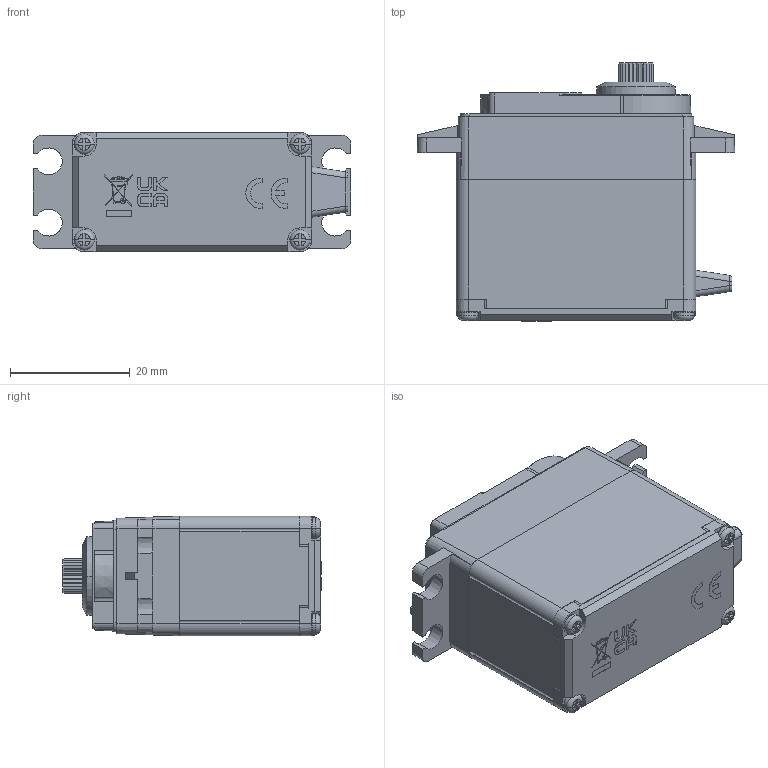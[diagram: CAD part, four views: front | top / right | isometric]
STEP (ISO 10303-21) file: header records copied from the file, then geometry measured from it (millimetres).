
FILE_DESCRIPTION((''),'2;1');
FILE_NAME('HS-5485HB_REPEAT_ASSY_ASM','2023-04-24T',('Kil'),(''),'CREO PARAMETRIC BY PTC INC, 2016050','CREO PARAMETRIC BY PTC INC, 2016050','');
FILE_SCHEMA(('CONFIG_CONTROL_DESIGN'));
Products named in the file (9): HS5485M-R_PBT_120101020162; HS5485T-R_PBT_120101010179; HS5485L-R_PBT_120101030168; 5485G4_HD_120212000604; HS5485G4-RN_ASM; WP_3P_BUSHING_120105020030; 120201000037_18A_CPHT2_2XL30; NP_120104010238_15_37_10_33; HS-5485HB_REPEAT_ASSY_ASM
Assembly tree (11 placements, depth 3):
  HS-5485HB_REPEAT_ASSY_ASM
    HS5485M-R_PBT_120101020162
    HS5485T-R_PBT_120101010179
    HS5485L-R_PBT_120101030168
    HS5485G4-RN_ASM
      5485G4_HD_120212000604
    WP_3P_BUSHING_120105020030
    120201000037_18A_CPHT2_2XL30  x4
    NP_120104010238_15_37_10_33
Bounding box: 53 x 43.05 x 20 mm (x, y, z)
Volume: 29523.4 mm3; surface area: 12746 mm2
Topology: 10 solids, 10 shells, 2474 faces, 6809 edges, 4490 vertices
Faces by surface type: plane 1400, extrusion 623, cylinder 285, cone 82, bspline 50, torus 34
Entity records: 100051 total; most frequent: CARTESIAN_POINT 25494, ORIENTED_EDGE 12370, DIRECTION 9064, PRESENTATION_STYLE_ASSIGNMENT 6269, STYLED_ITEM 6211, CURVE_STYLE 6185, EDGE_CURVE 6185, VECTOR 4952
